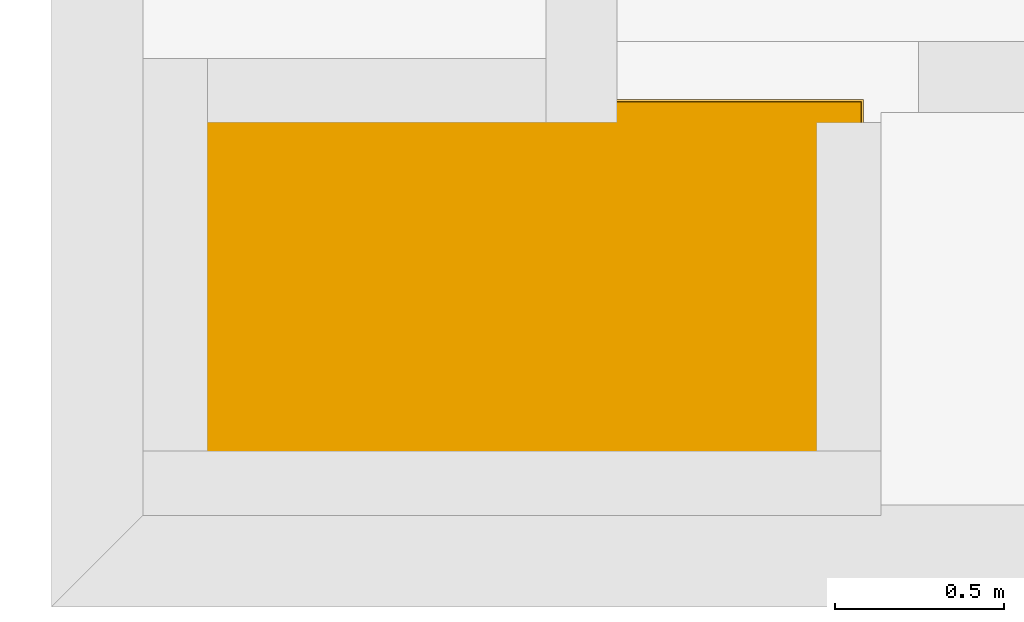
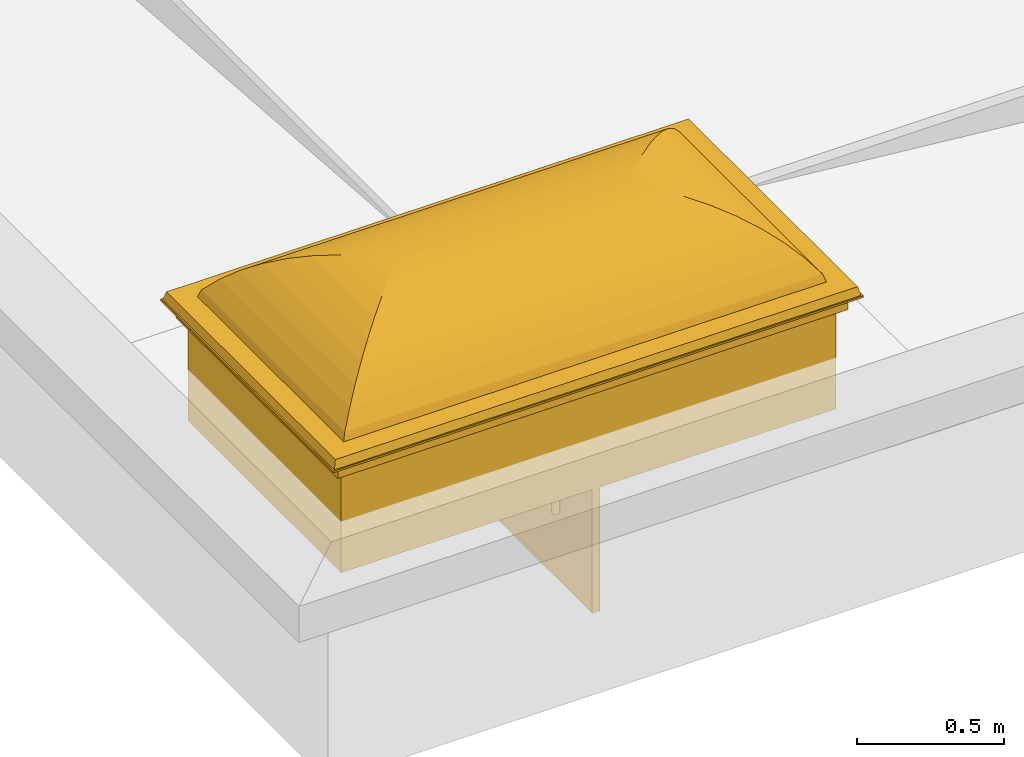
# One storey, part 4 of 6: 1 window.
"""IFC2X3 building model written with IfcOpenShell, lengths in millimetres."""

from ifc_helpers import new_model, entity, si_unit, converted_unit, direction, frame, origin, place, context, subcontext, project, spatial, face_set, surface_model, source, transform, mapped, material, material_list, type_object, type_shapes, element, save


model = new_model("IFC2X3")

# Units and contexts
model_context = context("Model", 3, precision=0.01, world=origin(), true_north=direction((6.123233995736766e-17, 1.0)))
plan_context = context("Plan", 3, precision=0.01, world=origin(), true_north=direction((6.123233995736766e-17, 1.0)))
body_context = subcontext(model_context, "Body", "Model", "MODEL_VIEW")
ifc_project = project(units=[si_unit("LENGTHUNIT", "METRE", prefix="MILLI"), converted_unit("PLANEANGLEUNIT", "DEGREE", entity("IfcPlaneAngleMeasure", 0.017453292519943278), si_unit("PLANEANGLEUNIT", "RADIAN"), dimensions=[0, 0, 0, 0, 0, 0, 0]), si_unit("AREAUNIT", "SQUARE_METRE")], contexts=[model_context, plan_context])

# Site, building, storey
site_placement = place(None, origin())
site = spatial("IfcSite", under=ifc_project, at=site_placement, Name="Default", CompositionType="ELEMENT")
building_placement = place(site_placement, origin())
building = spatial("IfcBuilding", under=site, at=building_placement, CompositionType="ELEMENT")
storey_placement = place(building_placement, frame((0.0, 0.0, 16500.0)))
storey = spatial("IfcBuildingStorey", under=building, at=storey_placement, Name="Parapet", CompositionType="ELEMENT", Elevation=16499.999999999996)

# Window
ifc_material_1 = material(Name="PC_Clear")
ifc_material_2 = material(Name="RR 20")
ifc_material_3 = material(Name="Default")
ifc_material_list_1 = material_list([ifc_material_1, ifc_material_2, ifc_material_3])
ifc_material_list_2 = material_list([ifc_material_2, ifc_material_1])
window_style = type_object("IfcWindowStyle", Name="Orivent 01:900 x 1800", ConstructionType="NOTDEFINED", OperationType="NOTDEFINED", ParameterTakesPrecedence=False, Sizeable=False, material=ifc_material_list_2)
shared_shape = source(origin(), body_context, "Body", "SurfaceModel", [
    surface_model("IfcFaceBasedSurfaceModel", [(-582.3042627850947, -1032.3042627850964, 5241.0), (-573.2455962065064, -1023.245596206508, 5274.807403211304), (-573.2455962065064, 1023.2455962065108, 5274.807403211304), (-582.3042627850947, 1032.3042627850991, 5241.0), (-587.8743072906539, -1037.8743072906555, 5234.0), (-587.8743072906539, -1037.8743072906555, 5241.0), (-587.8743072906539, 1037.8743072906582, 5241.0), (-587.8743072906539, 1037.8743072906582, 5234.0), (-571.6255959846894, -1021.6255959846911, 5253.807403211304), (-571.6255959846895, 1021.6255959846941, 5253.807403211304), (-576.9329738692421, 1026.9329738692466, 5234.0), (-576.932973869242, -1026.9329738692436, 5234.0), (571.625595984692, 1021.625595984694, 5253.807403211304), (576.9329738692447, 1026.9329738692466, 5234.0), (573.2455962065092, 1023.2455962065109, 5274.807403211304), (582.3042627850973, 1032.3042627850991, 5241.0), (587.8743072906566, 1037.8743072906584, 5241.0), (587.8743072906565, 1037.8743072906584, 5234.0), (571.625595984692, -1021.6255959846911, 5253.807403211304), (576.9329738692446, -1026.9329738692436, 5234.0), (573.2455962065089, -1023.245596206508, 5274.807403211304), (582.3042627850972, -1032.3042627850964, 5241.0), (587.8743072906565, -1037.8743072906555, 5241.0), (587.8743072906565, -1037.8743072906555, 5234.0), (-450.4974695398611, -900.4974695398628, 5253.807403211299), (-450.49746953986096, 900.4974695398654, 5253.807403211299), (450.4974695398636, 900.4974695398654, 5253.807403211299), (450.49746953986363, -900.4974695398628, 5253.807403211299), (-496.0302014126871, 946.0302014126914, 5274.807403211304), (496.03020141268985, 946.0302014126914, 5274.807403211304), (496.03020141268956, -946.0302014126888, 5274.807403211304), (-496.0302014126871, -946.0302014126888, 5274.807403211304), (0.0, 450.0, 5554.703756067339), (0.0, 450.0, 5501.234912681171), (0.0, -450.0, 5501.234912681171), (0.0, -450.0, 5554.703756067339), (-485.97814893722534, 935.9781160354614, 5305.392443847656), (485.97814893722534, 935.9781160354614, 5305.392443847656), (491.31390609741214, 941.3139095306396, 5290.202091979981), (-491.31390609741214, 941.3139095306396, 5290.202091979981), (485.97814893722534, -935.9781160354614, 5305.392443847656), (491.31390609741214, -941.3139095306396, 5290.202091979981), (-485.97814893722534, -935.9781160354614, 5305.392443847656), (-491.31390609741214, -941.3139095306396, 5290.202091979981), (-410.561785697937, 860.5617891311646, 5307.409181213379), (410.561785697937, 860.5617891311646, 5307.409181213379), (-364.3829183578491, 814.3829217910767, 5355.73588256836), (364.3829183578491, 814.3829217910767, 5355.73588256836), (-312.6512286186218, 762.6512683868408, 5398.065856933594), (312.6512286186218, 762.6512683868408, 5398.065856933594), (-256.1401794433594, 706.1401828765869, 5433.766003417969), (256.1401794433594, 706.1401828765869, 5433.766003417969), (-195.69457755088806, 645.6945991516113, 5462.302052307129), (195.69457755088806, 645.6945991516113, 5462.302052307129), (-132.2181650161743, 582.2181684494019, 5483.2484481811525), (132.2181650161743, 582.2181684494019, 5483.2484481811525), (-66.65993006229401, 516.6599244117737, 5496.290675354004), (66.65993006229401, 516.6599244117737, 5496.290675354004), (-70.83560178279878, 520.8356142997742, 5550.929782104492), (70.83560178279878, 520.8356142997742, 5550.929782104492), (140.7073179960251, 590.7073305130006, 5538.688087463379), (-140.7073179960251, 590.7073305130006, 5538.688087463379), (208.60650744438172, 658.606529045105, 5518.154457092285), (-208.60650744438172, 658.606529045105, 5518.154457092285), (273.552961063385, 723.5529281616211, 5489.625965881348), (-273.552961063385, 723.5529281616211, 5489.625965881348), (-334.6091543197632, 784.6091577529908, 5453.514216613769), (334.6091543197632, 784.6091577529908, 5453.514216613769), (390.8936184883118, 840.8936582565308, 5410.340107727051), (-390.8936184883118, 840.8936582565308, 5410.340107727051), (441.59393949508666, 891.5939065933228, 5360.7280197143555), (-441.59393949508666, 891.5939065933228, 5360.7280197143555), (410.561785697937, -860.5617891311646, 5307.409181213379), (364.3829183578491, -814.3829217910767, 5355.73588256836), (312.6512286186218, -762.6512683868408, 5398.065856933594), (256.1401794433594, -706.1401828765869, 5433.766003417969), (195.69457755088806, -645.6945991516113, 5462.302052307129), (132.2181650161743, -582.2181684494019, 5483.2484481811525), (66.65993006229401, -516.6599244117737, 5496.290675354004), (70.83560178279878, -520.8356142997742, 5550.929782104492), (140.7073179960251, -590.7073305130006, 5538.688087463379), (208.60650744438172, -658.606529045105, 5518.154457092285), (273.552961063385, -723.5529281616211, 5489.625965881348), (334.6091543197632, -784.6091577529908, 5453.514216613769), (390.8936184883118, -840.8936582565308, 5410.340107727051), (441.59393949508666, -891.5939065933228, 5360.7280197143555), (-410.561785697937, -860.5617891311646, 5307.409181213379), (-364.3829183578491, -814.3829217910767, 5355.73588256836), (-312.6512286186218, -762.6512683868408, 5398.065856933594), (-256.1401794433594, -706.1401828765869, 5433.766003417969), (-195.69457755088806, -645.6945991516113, 5462.302052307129), (-132.2181650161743, -582.2181684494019, 5483.2484481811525), (-66.65993006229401, -516.6599244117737, 5496.290675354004), (-70.83560178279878, -520.8356142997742, 5550.929782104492), (-140.7073179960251, -590.7073305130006, 5538.688087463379), (-208.60650744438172, -658.606529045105, 5518.154457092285), (-273.552961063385, -723.5529281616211, 5489.625965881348), (-334.6091543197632, -784.6091577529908, 5453.514216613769), (-390.8936184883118, -840.8936582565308, 5410.340107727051), (-441.59393949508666, -891.5939065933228, 5360.7280197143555)], [face_set([[[0, 1, 2, 3]], [[4, 5, 6, 7]], [[8, 9, 10, 11]], [[9, 12, 13, 10]], [[3, 2, 14, 15]], [[7, 6, 16, 17]], [[12, 18, 19, 13]], [[15, 14, 20, 21]], [[17, 16, 22, 23]], [[7, 4, 23, 17], [11, 10, 13, 19]], [[18, 8, 11, 19]], [[9, 8, 18, 12], [24, 25, 26, 27]], [[1, 20, 14, 2], [28, 29, 30, 31]], [[21, 20, 1, 0]], [[5, 22, 16, 6], [3, 15, 21, 0]], [[23, 22, 5, 4]], [[32, 33, 34, 35]], [[35, 34, 33, 32]], [[36, 37, 38, 39]], [[29, 28, 39, 38]], [[37, 40, 41, 38]], [[30, 29, 38, 41]], [[40, 42, 43, 41]], [[31, 30, 41, 43]], [[42, 36, 39, 43]], [[28, 31, 43, 39]], [[26, 25, 44, 45]], [[45, 44, 46, 47]], [[47, 46, 48, 49]], [[50, 51, 49, 48]], [[51, 50, 52, 53]], [[53, 52, 54, 55]], [[55, 54, 56, 57]], [[56, 33, 57]], [[58, 59, 60, 61]], [[61, 60, 62, 63]], [[63, 62, 64, 65]], [[32, 59, 58]], [[66, 67, 68, 69]], [[69, 68, 70, 71]], [[71, 70, 37, 36]], [[67, 66, 65, 64]], [[27, 26, 45, 72]], [[72, 45, 47, 73]], [[73, 47, 49, 74]], [[51, 75, 74, 49]], [[75, 51, 53, 76]], [[76, 53, 55, 77]], [[77, 55, 57, 78]], [[33, 34, 78, 57]], [[59, 79, 80, 60]], [[60, 80, 81, 62]], [[62, 81, 82, 64]], [[32, 35, 79, 59]], [[67, 83, 84, 68]], [[68, 84, 85, 70]], [[70, 85, 40, 37]], [[83, 67, 64, 82]], [[24, 27, 72, 86]], [[86, 72, 73, 87]], [[87, 73, 74, 88]], [[75, 89, 88, 74]], [[89, 75, 76, 90]], [[90, 76, 77, 91]], [[91, 77, 78, 92]], [[78, 34, 92]], [[79, 93, 94, 80]], [[80, 94, 95, 81]], [[81, 95, 96, 82]], [[35, 93, 79]], [[83, 97, 98, 84]], [[84, 98, 99, 85]], [[85, 99, 42, 40]], [[97, 83, 82, 96]], [[25, 24, 86, 44]], [[44, 86, 87, 46]], [[46, 87, 88, 48]], [[89, 50, 48, 88]], [[50, 89, 90, 52]], [[52, 90, 91, 54]], [[54, 91, 92, 56]], [[34, 33, 56, 92]], [[93, 58, 61, 94]], [[94, 61, 63, 95]], [[95, 63, 65, 96]], [[35, 32, 58, 93]], [[97, 66, 69, 98]], [[98, 69, 71, 99]], [[99, 71, 36, 42]], [[66, 97, 96, 65]]])]),
    surface_model("IfcFaceBasedSurfaceModel", [(-550.0, 1000.0, 5174.328442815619), (-550.0, 1000.0, 5249.0), (550.0, 1000.0, 5249.0), (550.0, 1000.0, 5174.328442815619), (-451.87430858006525, 901.8743085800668, 5249.0), (451.8743085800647, 901.8743085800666, 5249.0), (451.8743085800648, 901.8743085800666, 5195.0), (-451.87430858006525, 901.8743085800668, 5195.0), (550.0, -1000.0, 5249.0), (550.0, -1000.0, 5174.328442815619), (451.8743085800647, 49.062845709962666, 5249.0), (451.8743085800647, 49.062845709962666, 5195.0), (-550.0, -1000.0, 5249.0), (-550.0, -1000.0, 5174.328442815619), (451.8743085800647, -901.8743085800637, 5249.0), (-451.8743085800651, -901.8743085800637, 5249.0), (-451.8743085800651, -901.8743085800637, 5195.0), (451.8743085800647, -901.8743085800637, 5195.0), (-451.8743085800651, 49.062845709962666, 5249.0), (-451.8743085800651, -49.062845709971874, 5249.0), (451.8743085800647, -49.062845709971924, 5249.0), (524.9999976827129, 974.9999976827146, 5195.0), (-524.9999976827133, 974.9999976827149, 5195.0), (-524.9999976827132, -974.9999976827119, 5195.0), (524.9999976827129, -974.9999976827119, 5195.0), (-451.87430858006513, 49.062845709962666, 5195.0), (-451.8743085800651, -49.06284570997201, 5195.0), (451.8743085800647, -49.062845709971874, 5195.0), (-538.7138372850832, 988.7138372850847, 5174.333302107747), (538.713837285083, 988.7138372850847, 5174.333302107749), (-524.9999976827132, 974.9999976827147, 5188.061945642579), (524.9999976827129, 974.9999976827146, 5188.061945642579), (538.713837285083, -988.713837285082, 5174.333302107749), (524.9999976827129, -974.9999976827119, 5188.061945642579), (-538.7138372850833, -988.713837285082, 5174.333302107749), (-524.9999976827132, -974.9999976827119, 5188.061945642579), (520.0, -970.0, 4755.0), (520.0, -970.0, 5195.0), (-520.0, -970.0, 5195.0), (-520.0, -970.0, 4755.0), (520.0, 970.0, 5195.0), (520.0, 970.0, 4755.0), (-520.0, 970.0, 4755.0), (-520.0, 970.0, 5195.0), (450.0, 900.0, 5195.0), (450.0, -900.0, 5195.0), (450.0, -900.0, 4755.0), (450.0, 13.74999999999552, 4755.0), (450.0, 13.74999999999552, 4955.0), (450.0, 43.74999999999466, 4955.0), (450.0, 43.74999999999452, 4755.0), (450.0, 900.0, 4755.0), (-450.0, -900.0, 4755.0), (520.0, 13.74999999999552, 4755.0), (-520.0, 13.749999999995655, 4755.0), (-450.0, 13.74999999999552, 4755.0), (520.0, 13.749999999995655, 4242.400000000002), (520.0, 43.74999999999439, 4242.400000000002), (520.0, 43.74999999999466, 4755.0), (-450.0, 900.0, 5195.0), (-450.0, -900.0, 5195.0), (-520.0, 43.74999999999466, 4755.0), (-520.0, 43.74999999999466, 4242.400000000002), (-520.0, 13.749999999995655, 4242.400000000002), (-450.0, 900.0, 4755.0), (-450.0, 43.74999999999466, 4755.0), (-450.0, 43.74999999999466, 4955.0), (-450.0, 13.74999999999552, 4955.0), (282.77589021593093, 0.0, 5161.859974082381), (283.25292864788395, -3.623466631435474, 5161.859974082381), (284.65153456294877, -7.0, 5161.859974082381), (286.8763952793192, -9.899494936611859, 5161.859974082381), (289.7758902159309, -12.124355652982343, 5161.859974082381), (293.1524235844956, -13.522961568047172, 5161.859974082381), (296.7758902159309, -14.0, 5161.859974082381), (300.39935684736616, -13.522961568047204, 5161.859974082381), (303.7758902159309, -12.124355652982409, 5161.859974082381), (306.6753851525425, -9.89949493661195, 5161.859974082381), (308.90024586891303, -7.0, 5161.859974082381), (310.2988517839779, -3.6234666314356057, 5161.859974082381), (310.77589021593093, 0.0, 5161.859974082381), (310.2988517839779, 3.6234666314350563, 5161.859974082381), (308.9002458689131, 7.0, 5161.859974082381), (306.67538515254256, 9.899494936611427, 5161.859974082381), (303.77589021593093, 12.124355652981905, 5161.859974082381), (300.3993568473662, 13.522961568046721, 5161.859974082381), (296.77589021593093, 14.0, 5161.859974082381), (293.1524235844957, 13.522961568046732, 5161.859974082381), (289.77589021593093, 12.124355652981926, 5161.859974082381), (286.8763952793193, 9.899494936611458, 5161.859974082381), (284.65153456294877, 7.0, 5161.859974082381), (283.252928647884, 3.623466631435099, 5161.859974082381), (282.77589021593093, 0.0, 4529.859997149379), (283.25292864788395, -3.623466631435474, 4529.859997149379), (284.65153456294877, -7.0, 4529.859997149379), (286.8763952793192, -9.899494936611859, 4529.859997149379), (289.7758902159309, -12.124355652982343, 4529.859997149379), (293.1524235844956, -13.522961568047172, 4529.859997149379), (296.7758902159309, -14.0, 4529.859997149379), (300.39935684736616, -13.522961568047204, 4529.859997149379), (303.7758902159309, -12.124355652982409, 4529.859997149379), (306.6753851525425, -9.89949493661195, 4529.859997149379), (308.90024586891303, -7.0, 4529.859997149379), (310.2988517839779, -3.6234666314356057, 4529.859997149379), (310.77589021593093, 0.0, 4529.859997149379), (310.2988517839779, 3.6234666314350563, 4529.859997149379), (308.9002458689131, 7.0, 4529.859997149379), (306.67538515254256, 9.899494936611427, 4529.859997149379), (303.77589021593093, 12.124355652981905, 4529.859997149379), (300.3993568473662, 13.522961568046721, 4529.859997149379), (296.77589021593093, 14.0, 4529.859997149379), (293.1524235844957, 13.522961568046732, 4529.859997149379), (289.77589021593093, 12.124355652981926, 4529.859997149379), (286.8763952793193, 9.899494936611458, 4529.859997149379), (284.65153456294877, 7.0, 4529.859997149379), (283.252928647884, 3.623466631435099, 4529.859997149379)], [face_set([[[0, 1, 2, 3]], [[4, 5, 6, 7]], [[3, 2, 8, 9]], [[5, 10, 11, 6]], [[9, 8, 12, 13]], [[14, 15, 16, 17]], [[2, 1, 12, 8], [4, 5, 10, 18], [15, 19, 20, 14]], [[1, 0, 13, 12]], [[21, 22, 23, 24], [6, 11, 25, 7], [17, 16, 26, 27]], [[15, 19, 26, 16]], [[20, 19, 26, 27]], [[18, 10, 11, 25]], [[0, 28, 29, 3]], [[28, 30, 31, 29]], [[21, 31, 30, 22]], [[3, 29, 32, 9]], [[31, 33, 32, 29]], [[24, 33, 31, 21]], [[9, 32, 34, 13]], [[33, 35, 34, 32]], [[23, 35, 33, 24]], [[13, 34, 28, 0]], [[28, 34, 35, 30]], [[22, 30, 35, 23]], [[7, 25, 18, 4]], [[17, 27, 20, 14]]]), face_set([[[36, 37, 38, 39]], [[40, 41, 42, 43]], [[44, 45, 46, 47, 48, 49, 50, 51]], [[52, 46, 47, 53, 36, 39, 54, 55]], [[37, 36, 53, 56, 57, 58, 41, 40]], [[40, 43, 38, 37], [59, 44, 45, 60]], [[39, 38, 43, 42, 61, 62, 63, 54]], [[64, 65, 66, 67, 55, 52, 60, 59]], [[44, 51, 64, 59]], [[60, 52, 46, 45]], [[57, 62, 61, 65, 66, 49, 50, 58]], [[63, 56, 57, 62]], [[63, 54, 55, 67, 48, 47, 53, 56]], [[49, 66, 67, 48]], [[51, 64, 65, 61, 42, 41, 58, 50]]]), face_set([[[68, 69, 70, 71, 72, 73, 74, 75, 76, 77, 78, 79, 80, 81, 82, 83, 84, 85, 86, 87, 88, 89, 90, 91]], [[92, 93, 94, 95, 96, 97, 98, 99, 100, 101, 102, 103, 104, 105, 106, 107, 108, 109, 110, 111, 112, 113, 114, 115]], [[81, 105, 106, 82]], [[82, 106, 107, 83]], [[84, 108, 109, 85]], [[83, 107, 108, 84]], [[85, 109, 110, 86]], [[81, 80, 104, 105]], [[87, 111, 112, 88]], [[88, 112, 113, 89]], [[90, 114, 115, 91]], [[89, 113, 114, 90]], [[91, 115, 92, 68]], [[111, 87, 86, 110]], [[69, 93, 94, 70]], [[70, 94, 95, 71]], [[72, 96, 97, 73]], [[71, 95, 96, 72]], [[73, 97, 98, 74]], [[68, 92, 93, 69]], [[75, 99, 100, 76]], [[76, 100, 101, 77]], [[78, 102, 103, 79]], [[77, 101, 102, 78]], [[79, 103, 104, 80]], [[99, 75, 74, 98]]])]),
    surface_model("IfcFaceBasedSurfaceModel", [(289.7758902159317, 0.0, 5161.859974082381), (290.01440943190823, -1.8117333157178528, 5161.859974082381), (290.7137123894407, -3.5000000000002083, 5161.859974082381), (291.82614274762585, -4.949747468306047, 5161.859974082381), (293.2758902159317, -6.062177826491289, 5161.859974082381), (294.96415690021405, -6.7614807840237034, 5161.859974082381), (296.7758902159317, -7.0, 5161.859974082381), (298.58762353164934, -6.761480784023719, 5161.859974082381), (300.2758902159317, -6.062177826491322, 5161.859974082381), (301.72563768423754, -4.949747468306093, 5161.859974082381), (302.8380680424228, -3.500000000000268, 5161.859974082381), (303.5373709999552, -1.8117333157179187, 5161.859974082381), (303.7758902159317, 0.0, 5161.859974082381), (303.5373709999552, 1.811733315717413, 5161.859974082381), (302.83806804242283, 3.4999999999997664, 5161.859974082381), (301.72563768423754, 4.949747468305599, 5161.859974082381), (300.2758902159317, 6.062177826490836, 5161.859974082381), (298.5876235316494, 6.761480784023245, 5161.859974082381), (296.7758902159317, 7.0, 5161.859974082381), (294.9641569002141, 6.7614807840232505, 5161.859974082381), (293.2758902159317, 6.0621778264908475, 5161.859974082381), (291.8261427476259, 4.949747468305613, 5161.859974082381), (290.7137123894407, 3.499999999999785, 5161.859974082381), (290.01440943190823, 1.8117333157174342, 5161.859974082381), (289.7758902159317, 0.0, 5195.0), (290.01440943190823, -1.8117333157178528, 5195.0), (290.7137123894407, -3.5000000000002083, 5195.0), (291.82614274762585, -4.949747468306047, 5195.0), (293.2758902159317, -6.062177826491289, 5195.0), (294.96415690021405, -6.7614807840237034, 5195.0), (296.7758902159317, -7.0, 5195.0), (298.58762353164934, -6.761480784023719, 5195.0), (300.2758902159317, -6.062177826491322, 5195.0), (301.72563768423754, -4.949747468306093, 5195.0), (302.8380680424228, -3.500000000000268, 5195.0), (303.5373709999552, -1.8117333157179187, 5195.0), (303.7758902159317, 0.0, 5195.0), (303.5373709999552, 1.811733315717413, 5195.0), (302.83806804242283, 3.4999999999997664, 5195.0), (301.72563768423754, 4.949747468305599, 5195.0), (300.2758902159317, 6.062177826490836, 5195.0), (298.5876235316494, 6.761480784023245, 5195.0), (296.7758902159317, 7.0, 5195.0), (294.9641569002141, 6.7614807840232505, 5195.0), (293.2758902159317, 6.0621778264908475, 5195.0), (291.8261427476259, 4.949747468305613, 5195.0), (290.7137123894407, 3.499999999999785, 5195.0), (290.01440943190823, 1.8117333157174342, 5195.0)], [face_set([[[0, 1, 2, 3, 4, 5, 6, 7, 8, 9, 10, 11, 12, 13, 14, 15, 16, 17, 18, 19, 20, 21, 22, 23]], [[24, 25, 26, 27, 28, 29, 30, 31, 32, 33, 34, 35, 36, 37, 38, 39, 40, 41, 42, 43, 44, 45, 46, 47]], [[12, 13, 37, 36]], [[13, 14, 38, 37]], [[15, 16, 40, 39]], [[14, 15, 39, 38]], [[16, 17, 41, 40]], [[42, 41, 17, 18]], [[18, 19, 43, 42]], [[19, 20, 44, 43]], [[21, 22, 46, 45]], [[20, 21, 45, 44]], [[22, 23, 47, 46]], [[24, 47, 23, 0]], [[0, 1, 25, 24]], [[1, 2, 26, 25]], [[3, 4, 28, 27]], [[2, 3, 27, 26]], [[4, 5, 29, 28]], [[30, 29, 5, 6]], [[6, 7, 31, 30]], [[7, 8, 32, 31]], [[9, 10, 34, 33]], [[8, 9, 33, 32]], [[10, 11, 35, 34]], [[36, 35, 11, 12]]])]),
])
type_shapes(window_style, [shared_shape])
window_placement = place(storey_placement, frame((900.0, 2350.0, -4939.001287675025), z_axis=(0.0, 0.0, 1.0), x_axis=(0.0, -1.0, 0.0)))
element("IfcWindow", 1, at=window_placement, inside=storey, type_object=window_style, material=ifc_material_list_1, Name="Orivent 01:900 x 1800", ObjectType="Orivent 01:900 x 1800", OverallHeight=2075.748614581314, OverallWidth=1175.7486145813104, context=body_context, shape_type="MappedRepresentation", body=[
    mapped(shared_shape, transform((0.0, 0.0, 0.0), scale=1.0)),
])

save(model, "model.ifc")
